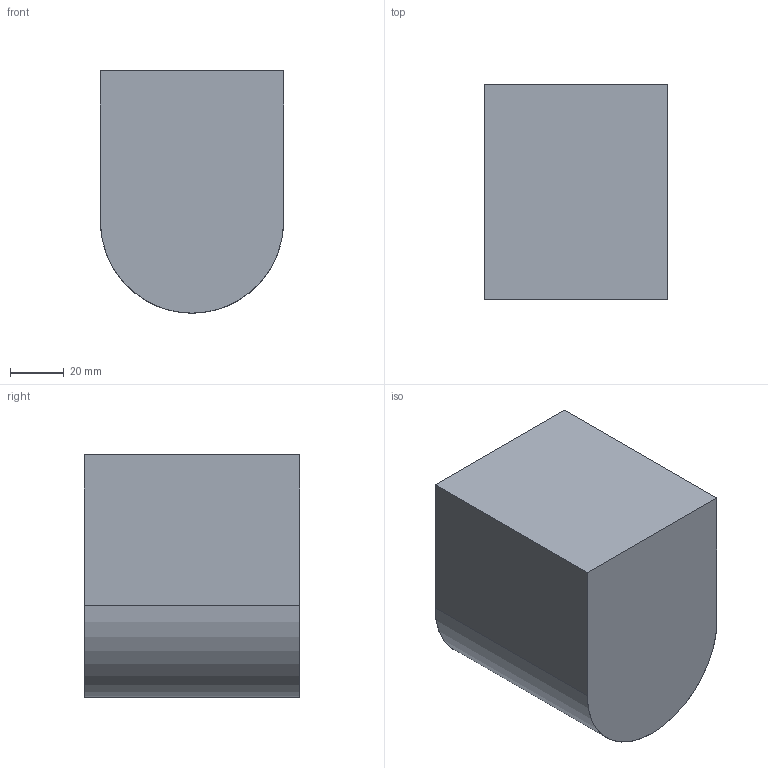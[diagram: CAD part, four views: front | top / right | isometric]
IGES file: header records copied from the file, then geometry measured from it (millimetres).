
Start section: SolidWorks IGES file using analytic representation for surfaces
Global section: file name: C:\Users\danielet\Desktop\3Ds\BOJ-A2040-3D\BOJ-A2040-3D.IGS; native system: SolidWorks 2018; preprocessor: SolidWorks 2018; author: danielet; date: 210802.085833; units: millimetre
Bounding box: 68 x 80 x 90 mm (x, y, z)
Surface area: 34398.3 mm2 (no closed solid volume)
Topology: 0 solids, 0 shells, 13 faces, 362 edges, 362 vertices
Faces by surface type: bspline 7, revolution 6
